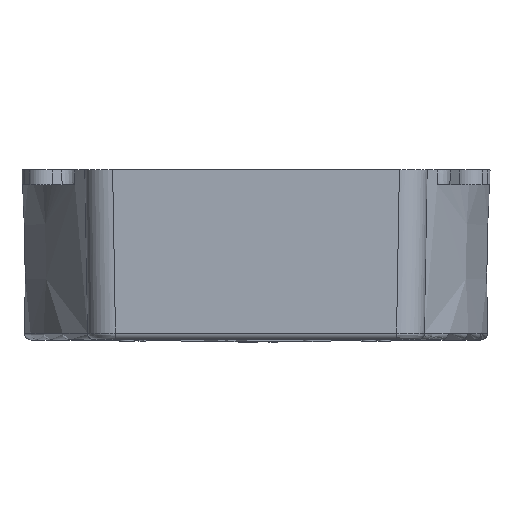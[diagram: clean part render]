
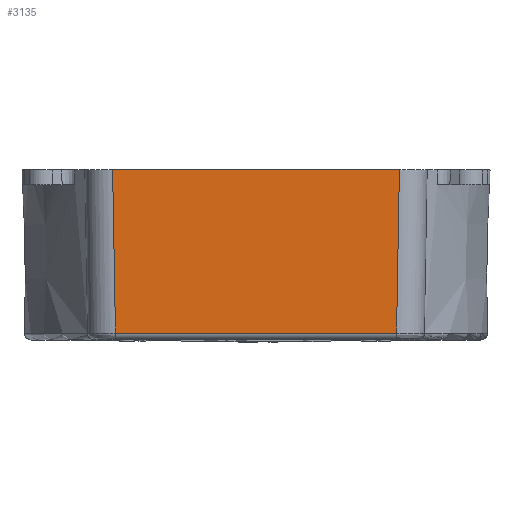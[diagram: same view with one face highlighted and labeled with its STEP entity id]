
A CAD part, top view. The second image highlights one B-rep face of the part: STEP entity #3135.
In plain terms, the highlighted planar face has unit normal (0, 0, 1).
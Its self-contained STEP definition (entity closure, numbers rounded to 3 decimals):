
#446=FACE_OUTER_BOUND('',#9128,.T.);
#3135=ADVANCED_FACE('',(#446),#5749,.T.);
#5749=PLANE('',#49742);
#9128=EDGE_LOOP('',(#25391,#25392,#25393,#25394));
#12516=LINE('',#66498,#18468);
#12749=LINE('',#68796,#18738);
#12750=LINE('',#68798,#18739);
#12751=LINE('',#68800,#18740);
#18468=VECTOR('',#53045,1.);
#18738=VECTOR('',#53643,1.);
#18739=VECTOR('',#53644,1.);
#18740=VECTOR('',#53645,1.);
#25391=ORIENTED_EDGE('',*,*,#42710,.T.);
#25392=ORIENTED_EDGE('',*,*,#43063,.T.);
#25393=ORIENTED_EDGE('',*,*,#43064,.T.);
#25394=ORIENTED_EDGE('',*,*,#43065,.T.);
#38163=VERTEX_POINT('',#66497);
#38164=VERTEX_POINT('',#66499);
#38352=VERTEX_POINT('',#68797);
#38353=VERTEX_POINT('',#68799);
#42710=EDGE_CURVE('',#38164,#38163,#12516,.T.);
#43063=EDGE_CURVE('',#38163,#38352,#12749,.T.);
#43064=EDGE_CURVE('',#38352,#38353,#12750,.T.);
#43065=EDGE_CURVE('',#38353,#38164,#12751,.T.);
#49742=AXIS2_PLACEMENT_3D('',#68801,#53646,#53647);
#53045=DIRECTION('',(-1.,0.,0.));
#53643=DIRECTION('',(0.017,-1.,0.));
#53644=DIRECTION('',(1.,0.,0.));
#53645=DIRECTION('',(0.017,1.,0.));
#53646=DIRECTION('',(0.,0.,1.));
#53647=DIRECTION('',(0.,1.,0.));
#66497=CARTESIAN_POINT('',(-131.889,0.,84.));
#66498=CARTESIAN_POINT('',(-138.,0.,84.));
#66499=CARTESIAN_POINT('',(-44.111,0.,84.));
#68796=CARTESIAN_POINT('',(-131.001,-50.878,84.));
#68797=CARTESIAN_POINT('',(-131.016,-50.,84.));
#68798=CARTESIAN_POINT('',(-138.,-50.,84.));
#68799=CARTESIAN_POINT('',(-44.984,-50.,84.));
#68800=CARTESIAN_POINT('',(-45.029,-52.623,84.));
#68801=CARTESIAN_POINT('',(-138.,-51.,84.));
